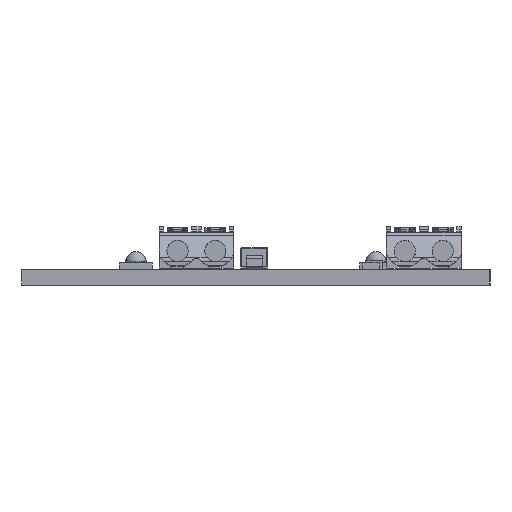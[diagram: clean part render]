
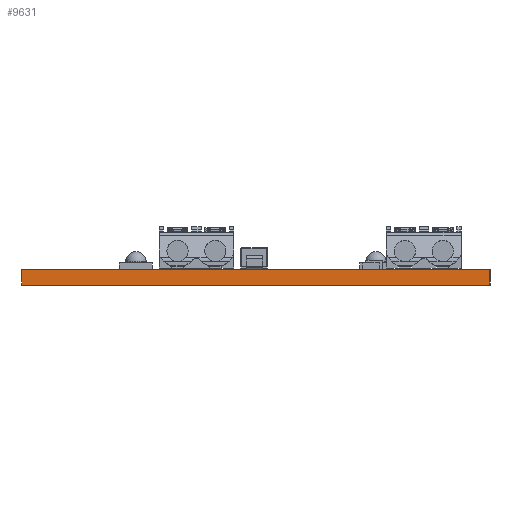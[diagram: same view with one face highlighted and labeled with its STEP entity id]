
A CAD part, left-side view. The second image highlights one B-rep face of the part: STEP entity #9631.
In plain terms, the highlighted planar face has unit normal (-1, 0, 0).
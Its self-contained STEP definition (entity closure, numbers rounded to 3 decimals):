
#14=DIRECTION('',(0.,1.,0.));
#15=VECTOR('',#14,49.5);
#16=CARTESIAN_POINT('',(-111.5,-24.75,0.));
#17=LINE('',#16,#15);
#234=DIRECTION('',(0.,0.,1.));
#235=VECTOR('',#234,1.65);
#236=CARTESIAN_POINT('',(-111.5,-24.75,0.));
#237=LINE('',#236,#235);
#238=DIRECTION('',(0.,0.,-1.));
#239=VECTOR('',#238,1.65);
#240=CARTESIAN_POINT('',(-111.5,24.75,1.65));
#241=LINE('',#240,#239);
#242=DIRECTION('',(0.,1.,0.));
#243=VECTOR('',#242,49.5);
#244=CARTESIAN_POINT('',(-111.5,-24.75,1.65));
#245=LINE('',#244,#243);
#7340=CARTESIAN_POINT('',(-111.5,24.75,1.65));
#7342=VERTEX_POINT('',#7340);
#7344=CARTESIAN_POINT('',(-111.5,-24.75,0.));
#7345=CARTESIAN_POINT('',(-111.5,24.75,0.));
#7346=VERTEX_POINT('',#7344);
#7347=VERTEX_POINT('',#7345);
#7395=CARTESIAN_POINT('',(-111.5,-24.75,1.65));
#7397=VERTEX_POINT('',#7395);
#9618=CARTESIAN_POINT('',(-111.5,24.75,1.65));
#9619=DIRECTION('',(-1.,0.,0.));
#9620=DIRECTION('',(0.,0.,1.));
#9621=AXIS2_PLACEMENT_3D('',#9618,#9619,#9620);
#9622=PLANE('',#9621);
#9624=ORIENTED_EDGE('',*,*,#9623,.F.);
#9625=ORIENTED_EDGE('',*,*,#9463,.T.);
#9626=ORIENTED_EDGE('',*,*,#9609,.F.);
#9628=ORIENTED_EDGE('',*,*,#9627,.F.);
#9629=EDGE_LOOP('',(#9624,#9625,#9626,#9628));
#9630=FACE_OUTER_BOUND('',#9629,.F.);
#9631=ADVANCED_FACE('',(#9630),#9622,.T.);
#9463=EDGE_CURVE('',#7346,#7347,#17,.T.);
#9609=EDGE_CURVE('',#7342,#7347,#241,.T.);
#9623=EDGE_CURVE('',#7346,#7397,#237,.T.);
#9627=EDGE_CURVE('',#7397,#7342,#245,.T.);
